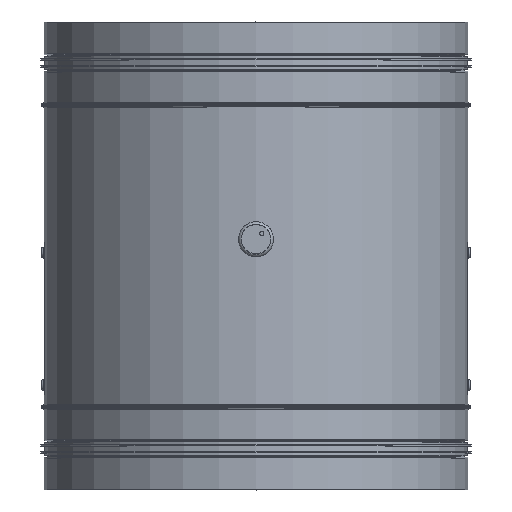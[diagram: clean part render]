
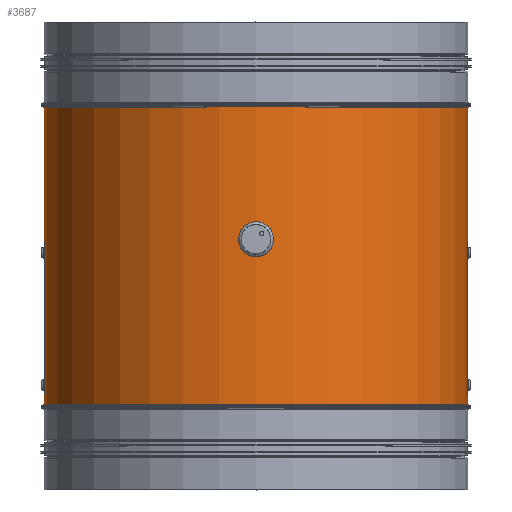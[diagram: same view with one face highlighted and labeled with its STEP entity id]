
A CAD part, top view. The second image highlights one B-rep face of the part: STEP entity #3687.
In plain terms, the highlighted cylindrical face has radius 156.5 mm (diameter 313 mm), a full revolution.
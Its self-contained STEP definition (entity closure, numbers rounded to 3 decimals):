
#108=CYLINDRICAL_SURFACE('',#4164,156.5);
#307=FACE_OUTER_BOUND('',#553,.T.);
#553=EDGE_LOOP('',(#2797,#2798,#2799,#2800));
#817=CIRCLE('',#4163,156.5);
#818=CIRCLE('',#4165,156.5);
#1001=LINE('',#5873,#1261);
#1066=LINE('',#6068,#1326);
#1261=VECTOR('',#4560,10.);
#1326=VECTOR('',#4753,10.);
#1521=VERTEX_POINT('',#5866);
#1523=VERTEX_POINT('',#5872);
#1587=VERTEX_POINT('',#6061);
#1589=VERTEX_POINT('',#6067);
#1849=EDGE_CURVE('',#1523,#1521,#1001,.T.);
#1946=EDGE_CURVE('',#1587,#1589,#1066,.T.);
#2049=EDGE_CURVE('',#1587,#1523,#817,.T.);
#2050=EDGE_CURVE('',#1589,#1521,#818,.T.);
#2797=ORIENTED_EDGE('',*,*,#1849,.T.);
#2798=ORIENTED_EDGE('',*,*,#2050,.F.);
#2799=ORIENTED_EDGE('',*,*,#1946,.F.);
#2800=ORIENTED_EDGE('',*,*,#2049,.T.);
#3687=ADVANCED_FACE('',(#307),#108,.T.);
#4163=AXIS2_PLACEMENT_3D('',#6271,#5051,#5052);
#4164=AXIS2_PLACEMENT_3D('',#6272,#5053,#5054);
#4165=AXIS2_PLACEMENT_3D('',#6273,#5055,#5056);
#4560=DIRECTION('',(0.,0.,-1.));
#4753=DIRECTION('',(0.,0.,-1.));
#5051=DIRECTION('center_axis',(0.,0.,-1.));
#5052=DIRECTION('ref_axis',(1.,0.,0.));
#5053=DIRECTION('center_axis',(0.,0.,-1.));
#5054=DIRECTION('ref_axis',(-1.,0.,0.));
#5055=DIRECTION('center_axis',(0.,0.,-1.));
#5056=DIRECTION('ref_axis',(1.,0.,0.));
#5866=CARTESIAN_POINT('',(156.5,0.027,-109.75));
#5872=CARTESIAN_POINT('',(156.5,0.027,109.75));
#5873=CARTESIAN_POINT('',(156.5,0.027,0.));
#6061=CARTESIAN_POINT('',(156.5,0.,109.75));
#6067=CARTESIAN_POINT('',(156.5,0.,-109.75));
#6068=CARTESIAN_POINT('',(156.5,0.,109.75));
#6271=CARTESIAN_POINT('Origin',(0.,0.,109.75));
#6272=CARTESIAN_POINT('Origin',(0.,0.,0.));
#6273=CARTESIAN_POINT('Origin',(0.,0.,-109.75));
